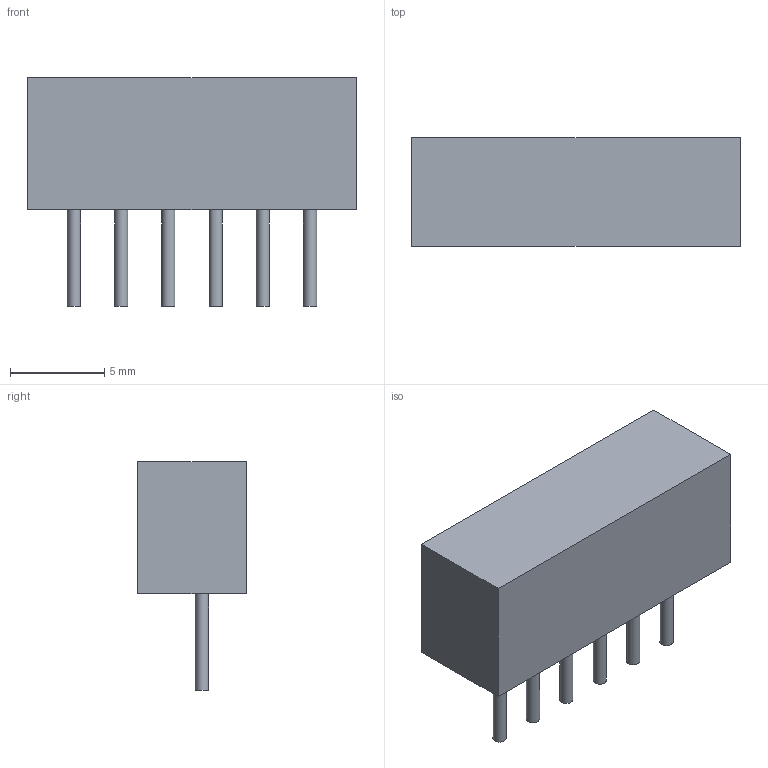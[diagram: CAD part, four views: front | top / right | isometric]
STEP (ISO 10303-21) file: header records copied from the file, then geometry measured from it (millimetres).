
FILE_DESCRIPTION(('FreeCAD Model'),'2;1');
FILE_NAME('/var/www/3D/0T/2375050.2.1.stp','2022-04-06T04:03:01',( 'Author'),(''),'Open CASCADE STEP processor 6.9','FreeCAD','Unknown' );
FILE_SCHEMA(('AUTOMOTIVE_DESIGN { 1 0 10303 214 1 1 1 1 }'));
Length unit declared in the file: millimetre
Products named in the file (3): ASSEMBLY; Body; Leads
Assembly tree (2 placements, depth 2):
  ASSEMBLY
    Body
    Leads
Bounding box: 17.4 x 5.75 x 12.1 mm (x, y, z)
Volume: 712.1 mm3; surface area: 596.1 mm2
Topology: 7 solids, 7 shells, 24 faces, 30 edges, 20 vertices
Faces by surface type: plane 18, cylinder 6
Full cylindrical faces by diameter (mm): 0.7 x6
Entity records: 977 total; most frequent: DIRECTION 156, CARTESIAN_POINT 137, LINE 66, VECTOR 66, ORIENTED_EDGE 60, PCURVE 60, DEFINITIONAL_REPRESENTATION 60, AXIS2_PLACEMENT_3D 39
